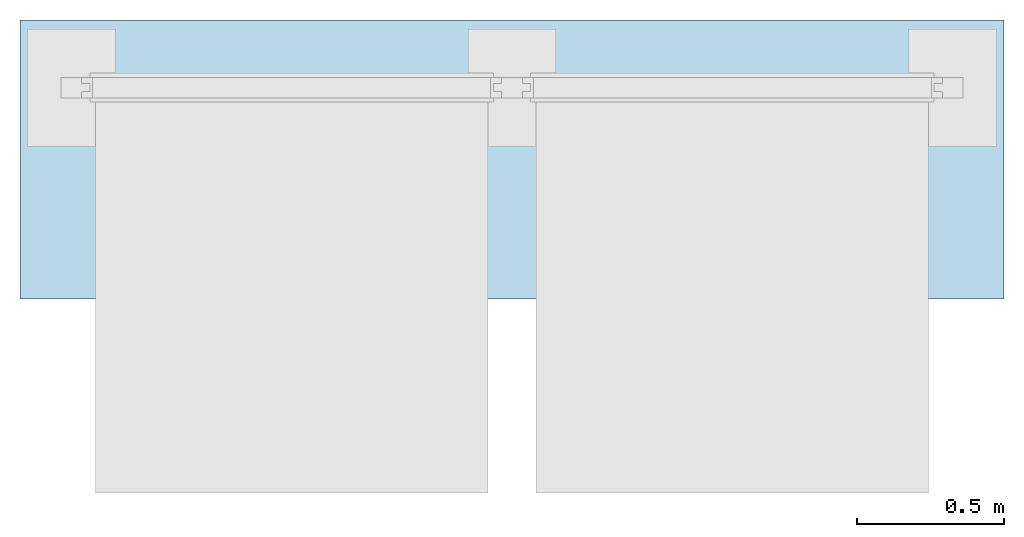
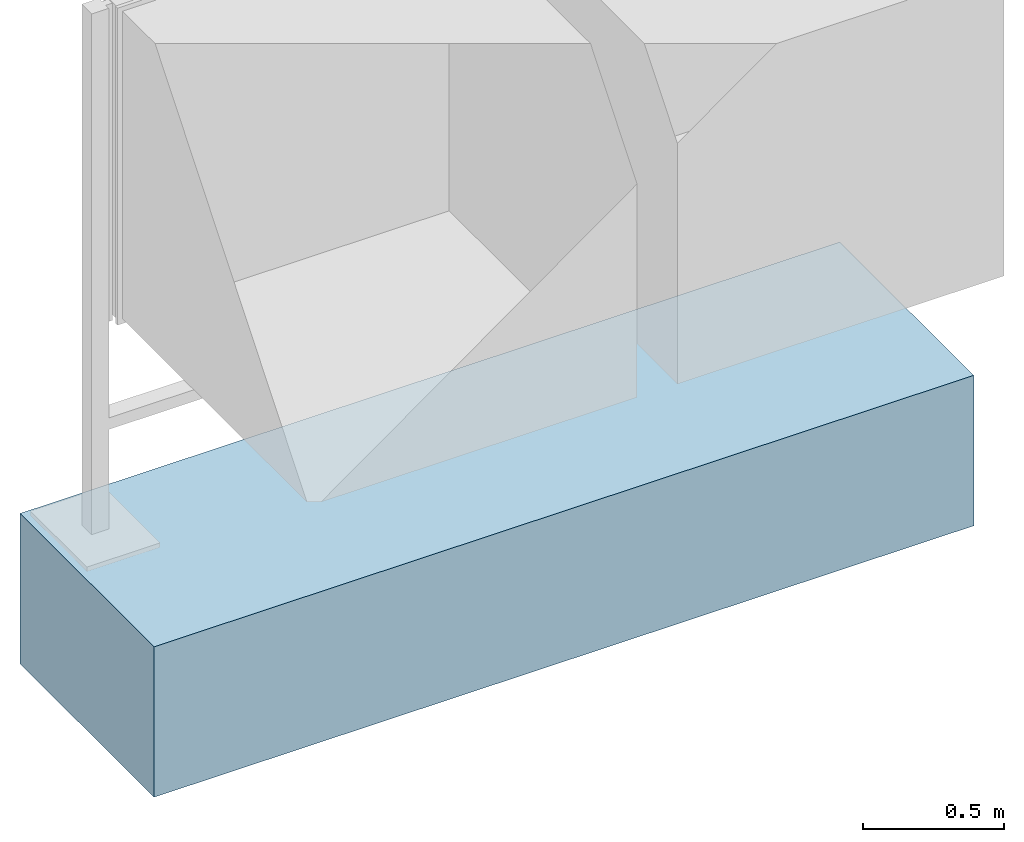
# One storey, incomplete: 1 slab.
"""IFC4 building model written with IfcOpenShell, lengths in metres."""

from ifc_helpers import new_model, entity, si_unit, converted_unit, direction, frame, origin, origin_2d_with_axis, place, context, subcontext, project, spatial, rectangle, extrude, material, type_object, element, save


model = new_model("IFC4")

# Units and contexts
model_context = context("Model", 3, precision=1e-05, world=origin(), true_north=direction((6.123031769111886e-17, 1.0)))
body_context = subcontext(model_context, "Body", "Model", "MODEL_VIEW")
ifc_project = project(units=[si_unit("LENGTHUNIT", "METRE"), converted_unit("PLANEANGLEUNIT", "DEGREE", entity("IfcPlaneAngleMeasure", 0.017453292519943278), si_unit("PLANEANGLEUNIT", "RADIAN"), dimensions=[0, 0, 0, 0, 0, 0, 0]), si_unit("AREAUNIT", "SQUARE_METRE")], contexts=[model_context])

# Site, building, storey
site_placement = place(None, origin())
site = spatial("IfcSite", under=ifc_project, at=site_placement, Name="Default", CompositionType="ELEMENT")
building_placement = place(site_placement, origin())
building = spatial("IfcBuilding", under=site, at=building_placement, CompositionType="ELEMENT")
storey_placement = place(building_placement, origin())
storey = spatial("IfcBuildingStorey", under=building, at=storey_placement, Name="Ebene 0", CompositionType="ELEMENT", Elevation=0.0)

# Slab
ifc_material = material(Name="DB_Magerbeton", Category="DB_Beton")
slab_type = type_object("IfcSlabType", Name="DB_Vitrine_Fundament_zweifeldrig_Windlastzone_1_2:DB_Vitrine_Fundament_zweifeldrig_Windlastzone_1_2", PredefinedType="BASESLAB", material=ifc_material)
slab_placement = place(storey_placement, origin())
element("IfcSlab", 1, at=slab_placement, inside=storey, type_object=slab_type, Name="DB_Vitrine_Fundament_zweifeldrig_Windlastzone_1_2:DB_Vitrine_Fundament_zweifeldrig_Windlastzone_1_2", ObjectType="DB_Vitrine_Fundament_zweifeldrig_Windlastzone_1_2:DB_Vitrine_Fundament_zweifeldrig_Windlastzone_1_2", PredefinedType="BASESLAB", context=body_context, shape_type="SweptSolid", body=[
    extrude(rectangle(XDim=0.9500000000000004, YDim=3.3499999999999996, at=origin_2d_with_axis()), frame((1.500000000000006, -0.24499999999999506, 0.0), z_axis=(0.0, 0.0, 1.0), x_axis=(0.0, -1.0, 0.0)), (0.0, 0.0, 1.0), 0.04999999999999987),
    extrude(rectangle(XDim=3.3499999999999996, YDim=0.95, at=origin_2d_with_axis()), frame((1.500000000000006, -0.2449999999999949, 0.04999999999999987), z_axis=(0.0, 0.0, 1.0), x_axis=(-1.0, 0.0, 0.0)), (0.0, 0.0, 1.0), 0.5999999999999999),
])

save(model, "model.ifc")
